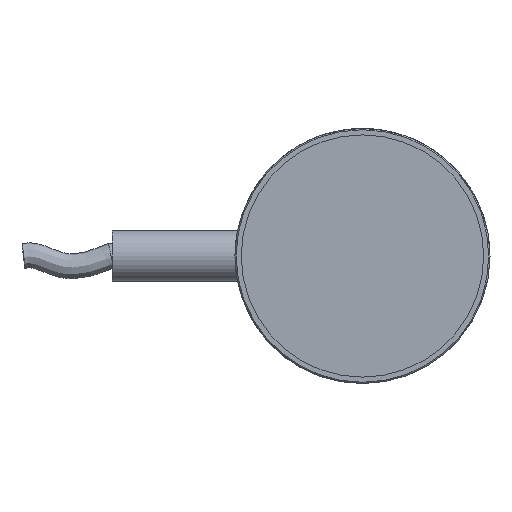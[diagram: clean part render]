
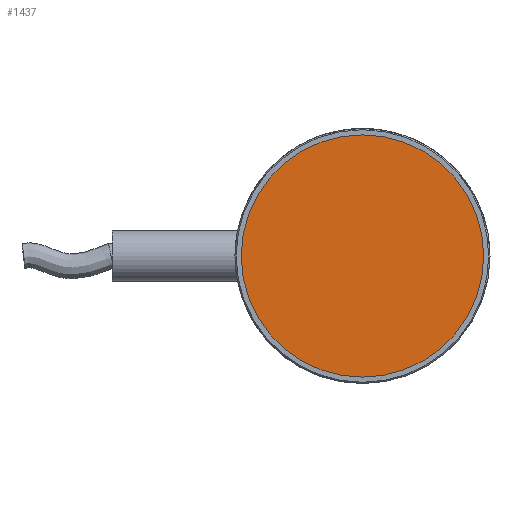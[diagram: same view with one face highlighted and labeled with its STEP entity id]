
A CAD part, left-side view. The second image highlights one B-rep face of the part: STEP entity #1437.
In plain terms, the highlighted planar face has unit normal (-1, 0, 0).
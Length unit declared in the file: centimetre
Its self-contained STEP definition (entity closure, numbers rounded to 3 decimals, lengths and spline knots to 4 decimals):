
#680=PLANE('',#1517);
#728=VERTEX_POINT('',#2057);
#810=CIRCLE('',#1515,0.95);
#878=EDGE_CURVE('',#728,#728,#810,.T.);
#1037=ORIENTED_EDGE('',*,*,#878,.T.);
#1276=EDGE_LOOP('',(#1037));
#1360=FACE_BOUND('',#1276,.T.);
#1437=ADVANCED_FACE('',(#1360),#680,.T.);
#1515=AXIS2_PLACEMENT_3D('',#2056,#1659,#1660);
#1517=AXIS2_PLACEMENT_3D('',#2060,#1663,$);
#1659=DIRECTION('',(-1.,0.,0.));
#1660=DIRECTION('',(0.,0.,0.95));
#1663=DIRECTION('',(-1.,0.,0.));
#2056=CARTESIAN_POINT('',(0.06,0.,0.));
#2057=CARTESIAN_POINT('',(0.06,0.,0.95));
#2060=CARTESIAN_POINT('',(0.06,0.,0.));
